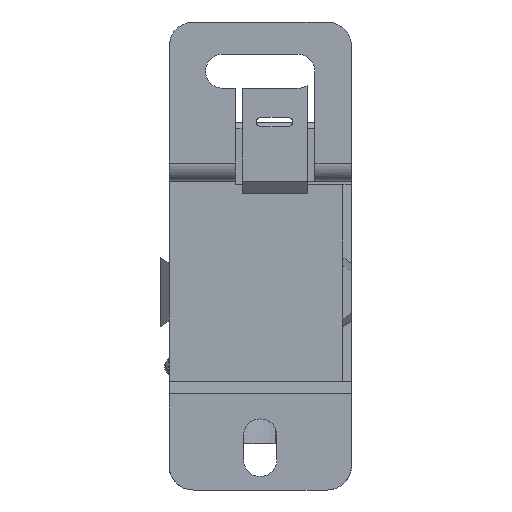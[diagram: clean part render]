
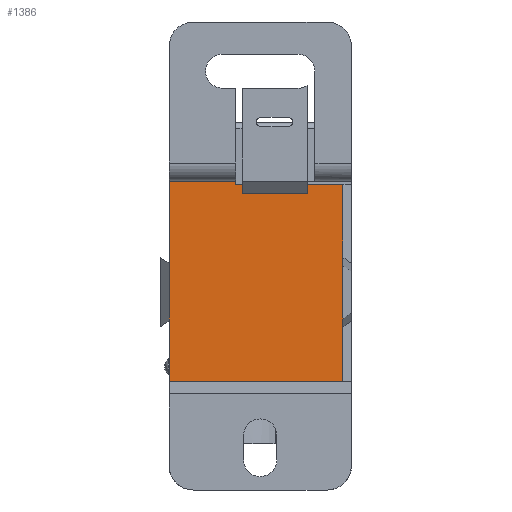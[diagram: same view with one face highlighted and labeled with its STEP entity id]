
A CAD part, front view. The second image highlights one B-rep face of the part: STEP entity #1386.
In plain terms, the highlighted planar face has unit normal (0, -1, 0).
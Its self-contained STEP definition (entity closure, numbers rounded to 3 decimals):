
#183 = EDGE_CURVE ( 'NONE', #2427, #2448, #5992, .T. ) ;
#197 = EDGE_CURVE ( 'NONE', #2413, #2410, #6034, .T. ) ;
#198 = EDGE_CURVE ( 'NONE', #2476, #2409, #6037, .T. ) ;
#199 = EDGE_CURVE ( 'NONE', #2476, #2479, #6040, .T. ) ;
#200 = EDGE_CURVE ( 'NONE', #2485, #2479, #6043, .T. ) ;
#201 = EDGE_CURVE ( 'NONE', #2485, #2489, #6046, .T. ) ;
#202 = EDGE_CURVE ( 'NONE', #2489, #2448, #6049, .T. ) ;
#203 = EDGE_CURVE ( 'NONE', #2427, #2414, #6052, .T. ) ;
#440 = EDGE_CURVE ( 'NONE', #2410, #2409, #7629, .T. ) ;
#444 = EDGE_CURVE ( 'NONE', #2414, #2413, #7641, .T. ) ;
#1386 = ADVANCED_FACE ( 'NONE', ( #11865 ), #11107, .T. ) ;
#1685 = EDGE_LOOP ( 'NONE', ( #4196, #4197, #4194, #4198, #4200, #4199, #4201, #4202, #4203, #4204 ) ) ;
#2409 = VERTEX_POINT ( 'NONE', #12783 ) ;
#2410 = VERTEX_POINT ( 'NONE', #12784 ) ;
#2413 = VERTEX_POINT ( 'NONE', #12787 ) ;
#2414 = VERTEX_POINT ( 'NONE', #12788 ) ;
#2427 = VERTEX_POINT ( 'NONE', #12801 ) ;
#2448 = VERTEX_POINT ( 'NONE', #12822 ) ;
#2476 = VERTEX_POINT ( 'NONE', #12850 ) ;
#2479 = VERTEX_POINT ( 'NONE', #12853 ) ;
#2485 = VERTEX_POINT ( 'NONE', #12859 ) ;
#2489 = VERTEX_POINT ( 'NONE', #12863 ) ;
#4194 = ORIENTED_EDGE ( 'NONE', *, *, #440, .T. ) ;
#4196 = ORIENTED_EDGE ( 'NONE', *, *, #444, .T. ) ;
#4197 = ORIENTED_EDGE ( 'NONE', *, *, #197, .T. ) ;
#4198 = ORIENTED_EDGE ( 'NONE', *, *, #198, .F. ) ;
#4199 = ORIENTED_EDGE ( 'NONE', *, *, #200, .F. ) ;
#4200 = ORIENTED_EDGE ( 'NONE', *, *, #199, .T. ) ;
#4201 = ORIENTED_EDGE ( 'NONE', *, *, #201, .T. ) ;
#4202 = ORIENTED_EDGE ( 'NONE', *, *, #202, .T. ) ;
#4203 = ORIENTED_EDGE ( 'NONE', *, *, #183, .F. ) ;
#4204 = ORIENTED_EDGE ( 'NONE', *, *, #203, .T. ) ;
#5992 = LINE ( 'NONE', #5993, #6674 ) ;
#5993 = CARTESIAN_POINT ( 'NONE',  ( -4., 6.3, 12.3 ) ) ;
#5994 = DIRECTION ( 'NONE',  ( 0., 0., -1. ) ) ;
#6034 = LINE ( 'NONE', #6035, #6689 ) ;
#6035 = CARTESIAN_POINT ( 'NONE',  ( -15., 6.3, -11.701 ) ) ;
#6036 = DIRECTION ( 'NONE',  ( 0., 0., -1. ) ) ;
#6037 = LINE ( 'NONE', #6038, #6690 ) ;
#6038 = CARTESIAN_POINT ( 'NONE',  ( 72.486, 6.3, -22.7 ) ) ;
#6039 = DIRECTION ( 'NONE',  ( -1., 0., 0. ) ) ;
#6040 = LINE ( 'NONE', #6041, #6691 ) ;
#6041 = CARTESIAN_POINT ( 'NONE',  ( 13.6, 6.3, 12.3 ) ) ;
#6042 = DIRECTION ( 'NONE',  ( 0., 0., 1. ) ) ;
#6043 = LINE ( 'NONE', #6044, #6692 ) ;
#6044 = CARTESIAN_POINT ( 'NONE',  ( 13.6, 6.3, -11.701 ) ) ;
#6045 = DIRECTION ( 'NONE',  ( 0., 0., -1. ) ) ;
#6046 = LINE ( 'NONE', #6047, #6693 ) ;
#6047 = CARTESIAN_POINT ( 'NONE',  ( 13.6, 6.3, 12.3 ) ) ;
#6048 = DIRECTION ( 'NONE',  ( 0., 0., 1. ) ) ;
#6049 = LINE ( 'NONE', #6050, #6694 ) ;
#6050 = CARTESIAN_POINT ( 'NONE',  ( 72.486, 6.3, 11.8 ) ) ;
#6051 = DIRECTION ( 'NONE',  ( -1., 0., 0. ) ) ;
#6052 = LINE ( 'NONE', #6053, #6695 ) ;
#6053 = CARTESIAN_POINT ( 'NONE',  ( 72.486, 6.3, 12.3 ) ) ;
#6054 = DIRECTION ( 'NONE',  ( -1., 0., 0. ) ) ;
#6674 = VECTOR ( 'NONE', #5994, 1000. ) ;
#6689 = VECTOR ( 'NONE', #6036, 1000. ) ;
#6690 = VECTOR ( 'NONE', #6039, 1000. ) ;
#6691 = VECTOR ( 'NONE', #6042, 1000. ) ;
#6692 = VECTOR ( 'NONE', #6045, 1000. ) ;
#6693 = VECTOR ( 'NONE', #6048, 1000. ) ;
#6694 = VECTOR ( 'NONE', #6051, 1000. ) ;
#6695 = VECTOR ( 'NONE', #6054, 1000. ) ;
#7629 = LINE ( 'NONE', #7630, #8141 ) ;
#7630 = CARTESIAN_POINT ( 'NONE',  ( -15., 6.3, 12.3 ) ) ;
#7631 = DIRECTION ( 'NONE',  ( 0., 0., -1. ) ) ;
#7641 = LINE ( 'NONE', #7642, #8146 ) ;
#7642 = CARTESIAN_POINT ( 'NONE',  ( -15., 6.3, 12.3 ) ) ;
#7643 = DIRECTION ( 'NONE',  ( 0., 0., -1. ) ) ;
#8141 = VECTOR ( 'NONE', #7631, 1000. ) ;
#8146 = VECTOR ( 'NONE', #7643, 1000. ) ;
#11107 = PLANE ( 'NONE',  #11868 ) ;
#11108 = CARTESIAN_POINT ( 'NONE',  ( 72.486, 6.3, 12.3 ) ) ;
#11109 = DIRECTION ( 'NONE',  ( 0., -1., 0. ) ) ;
#11110 = DIRECTION ( 'NONE',  ( 0., 0., -1. ) ) ;
#11865 = FACE_OUTER_BOUND ( 'NONE', #1685, .T. ) ;
#11868 = AXIS2_PLACEMENT_3D ( 'NONE', #11108, #11109, #11110 ) ;
#12783 = CARTESIAN_POINT ( 'NONE',  ( -15., 6.3, -22.7 ) ) ;
#12784 = CARTESIAN_POINT ( 'NONE',  ( -15., 6.3, -10.7 ) ) ;
#12787 = CARTESIAN_POINT ( 'NONE',  ( -15., 6.3, -1.2 ) ) ;
#12788 = CARTESIAN_POINT ( 'NONE',  ( -15., 6.3, 12.3 ) ) ;
#12801 = CARTESIAN_POINT ( 'NONE',  ( -4., 6.3, 12.3 ) ) ;
#12822 = CARTESIAN_POINT ( 'NONE',  ( -4., 6.3, 11.8 ) ) ;
#12850 = CARTESIAN_POINT ( 'NONE',  ( 13.6, 6.3, -22.7 ) ) ;
#12853 = CARTESIAN_POINT ( 'NONE',  ( 13.6, 6.3, -11.701 ) ) ;
#12859 = CARTESIAN_POINT ( 'NONE',  ( 13.6, 6.3, -0.199 ) ) ;
#12863 = CARTESIAN_POINT ( 'NONE',  ( 13.6, 6.3, 11.8 ) ) ;
